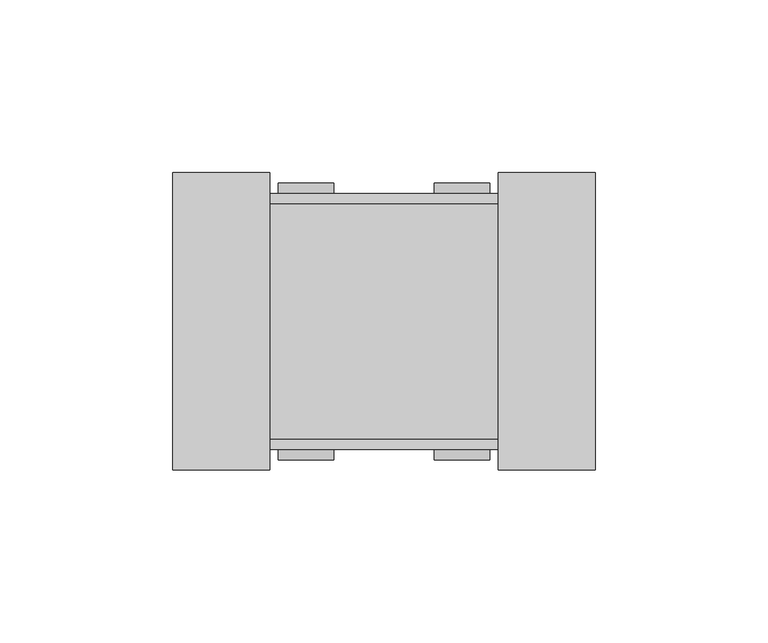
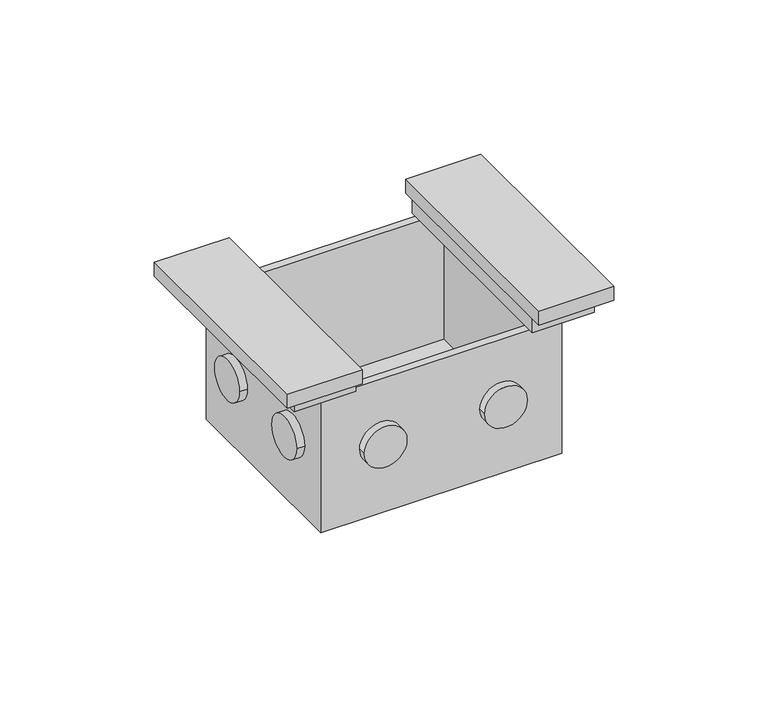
"""IFC4 building model written with IfcOpenShell, lengths in millimetres: proxy geometry, BT_LN-ScatolaIncasso50x_ConPlacca : Scatola da incasso 503E - 3M - Placca Acciaio."""

from ifc_helpers import new_model, si_unit, point, frame, frame_2d, origin, origin_with_axes, place, context, project, spatial, polyline, circle_curve, trimmed, segment, composite_curve, outline, extrude, faceted_brep, source, transform, mapped, element, save


def electrical_fixtures_f9fe39f6(model_context):
    return source(origin(), model_context, "Body", "SolidModel", [
        extrude(outline(polyline([(33.0, -43.0), (33.0, 43.0), (61.0, 43.0), (61.0, -43.0), (33.0, -43.0)])), frame((0.0, 0.0, 5.5), z_axis=(0.0, 0.0, 1.0), x_axis=(1.0, 0.0, 0.0)), (0.0, 0.0, 1.0), 5.5),
        extrude(outline(polyline([(-61.0, -43.0), (-61.0, 43.0), (-33.0, 43.0), (-33.0, -43.0), (-61.0, -43.0)])), frame((0.0, 0.0, 5.5), z_axis=(0.0, 0.0, 1.0), x_axis=(1.0, 0.0, 0.0)), (0.0, 0.0, 1.0), 5.5),
        extrude(outline(polyline([(33.0, -39.0), (33.0, 39.0), (56.0, 39.0), (56.0, -39.0), (33.0, -39.0)])), origin_with_axes(), (0.0, 0.0, 1.0), 5.5),
        extrude(outline(polyline([(-33.0, 39.0), (-33.0, -39.0), (-56.0, -39.0), (-56.0, 39.0), (-33.0, 39.0)])), origin_with_axes(), (0.0, 0.0, 1.0), 5.5),
        extrude(outline(composite_curve([segment(trimmed(circle_curve(frame_2d((18.5, -25.0)), 8.0), [point((10.5, -25.0))], [point((26.5, -25.0))], False, "CARTESIAN"), True, "CONTINUOUS"), segment(trimmed(circle_curve(frame_2d((18.5, -25.0)), 8.0), [point((26.5, -25.0))], [point((10.5, -25.0))], False, "CARTESIAN"), True, "CONTINUOUS")], self_intersect=False)), frame((-48.0, 0.0, 0.0), z_axis=(1.0, 0.0, 0.0), x_axis=(0.0, 1.0, 0.0)), (0.0, 0.0, 1.0), 3.0),
        extrude(outline(composite_curve([segment(trimmed(circle_curve(frame_2d((-18.5, -25.0)), 8.0), [point((-26.5, -25.0))], [point((-10.5, -25.0))], False, "CARTESIAN"), True, "CONTINUOUS"), segment(trimmed(circle_curve(frame_2d((-18.5, -25.0)), 8.0), [point((-10.5, -25.0))], [point((-26.5, -25.0))], False, "CARTESIAN"), True, "CONTINUOUS")], self_intersect=False)), frame((-48.0, 0.0, 0.0), z_axis=(1.0, 0.0, 0.0), x_axis=(0.0, 1.0, 0.0)), (0.0, 0.0, 1.0), 3.0),
        extrude(outline(composite_curve([segment(trimmed(circle_curve(frame_2d((-25.0, -22.5)), 8.0), [point((-25.0, -30.5))], [point((-25.0, -14.5))], False, "CARTESIAN"), True, "CONTINUOUS"), segment(trimmed(circle_curve(frame_2d((-25.0, -22.5)), 8.0), [point((-25.0, -14.5))], [point((-25.0, -30.5))], False, "CARTESIAN"), True, "CONTINUOUS")], self_intersect=False)), frame((0.0, -40.0, 0.0), z_axis=(0.0, 1.0, 0.0), x_axis=(0.0, 0.0, 1.0)), (0.0, 0.0, 1.0), 3.0),
        extrude(outline(composite_curve([segment(trimmed(circle_curve(frame_2d((-25.0, 22.5)), 8.0), [point((-25.0, 14.5))], [point((-25.0, 30.5))], False, "CARTESIAN"), True, "CONTINUOUS"), segment(trimmed(circle_curve(frame_2d((-25.0, 22.5)), 8.0), [point((-25.0, 30.5))], [point((-25.0, 14.5))], False, "CARTESIAN"), True, "CONTINUOUS")], self_intersect=False)), frame((0.0, -40.0, 0.0), z_axis=(0.0, 1.0, 0.0), x_axis=(0.0, 0.0, 1.0)), (0.0, 0.0, 1.0), 3.0),
        extrude(outline(composite_curve([segment(trimmed(circle_curve(frame_2d((-18.5, -25.0)), 8.0), [point((-26.5, -25.0))], [point((-10.5, -25.0))], False, "CARTESIAN"), True, "CONTINUOUS"), segment(trimmed(circle_curve(frame_2d((-18.5, -25.0)), 8.0), [point((-10.5, -25.0))], [point((-26.5, -25.0))], False, "CARTESIAN"), True, "CONTINUOUS")], self_intersect=False)), frame((45.0, 0.0, 0.0), z_axis=(1.0, 0.0, 0.0), x_axis=(0.0, 1.0, 0.0)), (0.0, 0.0, 1.0), 3.0),
        extrude(outline(composite_curve([segment(trimmed(circle_curve(frame_2d((18.5, -25.0)), 8.0), [point((10.5, -25.0))], [point((26.5, -25.0))], False, "CARTESIAN"), True, "CONTINUOUS"), segment(trimmed(circle_curve(frame_2d((18.5, -25.0)), 8.0), [point((26.5, -25.0))], [point((10.5, -25.0))], False, "CARTESIAN"), True, "CONTINUOUS")], self_intersect=False)), frame((45.0, 0.0, 0.0), z_axis=(1.0, 0.0, 0.0), x_axis=(0.0, 1.0, 0.0)), (0.0, 0.0, 1.0), 3.0),
        extrude(outline(composite_curve([segment(trimmed(circle_curve(frame_2d((-25.0, -22.5)), 8.0), [point((-25.0, -30.5))], [point((-25.0, -14.5))], False, "CARTESIAN"), True, "CONTINUOUS"), segment(trimmed(circle_curve(frame_2d((-25.0, -22.5)), 8.0), [point((-25.0, -14.5))], [point((-25.0, -30.5))], False, "CARTESIAN"), True, "CONTINUOUS")], self_intersect=False)), frame((0.0, 37.0, 0.0), z_axis=(0.0, 1.0, 0.0), x_axis=(0.0, 0.0, 1.0)), (0.0, 0.0, 1.0), 3.0),
        extrude(outline(composite_curve([segment(trimmed(circle_curve(frame_2d((-25.0, 22.5)), 8.0), [point((-25.0, 14.5))], [point((-25.0, 30.5))], False, "CARTESIAN"), True, "CONTINUOUS"), segment(trimmed(circle_curve(frame_2d((-25.0, 22.5)), 8.0), [point((-25.0, 30.5))], [point((-25.0, 14.5))], False, "CARTESIAN"), True, "CONTINUOUS")], self_intersect=False)), frame((0.0, 37.0, 0.0), z_axis=(0.0, 1.0, 0.0), x_axis=(0.0, 0.0, 1.0)), (0.0, 0.0, 1.0), 3.0),
        faceted_brep([(-42.0, -34.0, -50.0), (42.0, -34.0, -50.0), (42.0, 34.0, -50.0), (-42.0, 34.0, -50.0), (-45.0, 37.0, -53.0), (45.0, 37.0, -53.0), (45.0, -37.0, -53.0), (-45.0, -37.0, -53.0), (-45.0, 37.0, 0.0), (-45.0, -37.0, 0.0), (45.0, -37.0, 0.0), (45.0, 37.0, 0.0), (42.0, -34.0, 0.0), (-42.0, -34.0, 0.0), (-42.0, 34.0, 0.0), (42.0, 34.0, 0.0)], [[[0, 1, 2, 3]], [[4, 5, 6, 7]], [[8, 9, 10, 11], [12, 13, 14, 15]], [[9, 8, 4, 7]], [[10, 9, 7, 6]], [[11, 10, 6, 5]], [[8, 11, 5, 4]], [[13, 12, 1, 0]], [[14, 13, 0, 3]], [[15, 14, 3, 2]], [[12, 15, 2, 1]]]),
    ])


if __name__ == "__main__":
    model = new_model("IFC4")
    model_context = context("Model", 3, world=origin())
    ifc_project = project(units=[si_unit("LENGTHUNIT", "METRE", prefix="MILLI")], contexts=[model_context])
    site = spatial("IfcSite", under=ifc_project)
    building = spatial("IfcBuilding", under=site)
    placement = place(None, origin())
    electrical_fixtures_shape = electrical_fixtures_f9fe39f6(model_context)
    element("IfcBuildingElementProxy", 1, Name="BT_LN-ScatolaIncasso50x_ConPlacca : Scatola da incasso 503E - 3M - Placca Acciaio", ObjectType="BT_LN-ScatolaIncasso50x_ConPlacca : Scatola da incasso 503E - 3M - Placca Acciaio", at=placement, inside=building, context=model_context, shape_type="MappedRepresentation", body=[
        mapped(electrical_fixtures_shape, transform((0.0, 0.0, 0.0), x_axis=(1.0, 0.0, 0.0), y_axis=(0.0, 1.0, 0.0), z_axis=(0.0, 0.0, 1.0))),
    ])
    save(model, "model.ifc")
